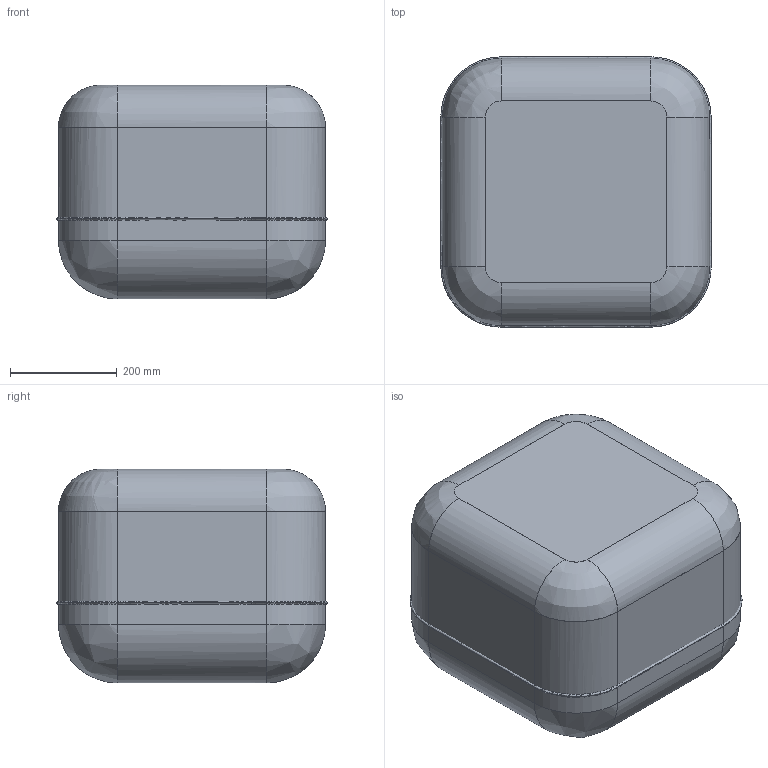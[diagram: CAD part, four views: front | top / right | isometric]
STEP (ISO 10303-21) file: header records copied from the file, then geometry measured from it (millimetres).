
FILE_DESCRIPTION(/* description */ (''),/* implementation_level */ '2;1');
FILE_NAME(/* name */ 'KINOSH~1',/* time_stamp */ '2024-07-10T16:53:20+09:00',/* author */ (''),/* organization */ (''),/* preprocessor_version */ 'ST-DEVELOPER v16.5',/* originating_system */ '',/* authorisation */ '');
FILE_SCHEMA (('AUTOMOTIVE_DESIGN'));
Length unit declared in the file: millimetre
Products named in the file (1): Document
Bounding box: 506.2 x 506.2 x 400 mm (x, y, z)
Volume: 89237072.8 mm3; surface area: 1709355.4 mm2
Topology: 2 solids, 3 shells, 59 faces, 124 edges, 68 vertices
Faces by surface type: bspline 48, plane 11
Entity records: 3860 total; most frequent: CARTESIAN_POINT 3122, ORIENTED_EDGE 240, EDGE_CURVE 124, VERTEX_POINT 68, B_SPLINE_CURVE_WITH_KNOTS 60, ADVANCED_FACE 59, FACE_OUTER_BOUND 59, EDGE_LOOP 59
